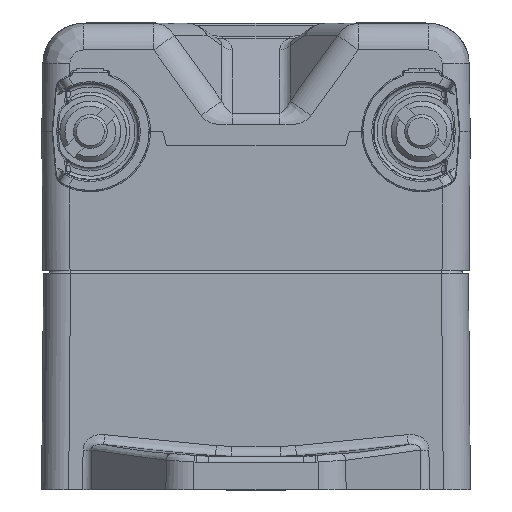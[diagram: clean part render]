
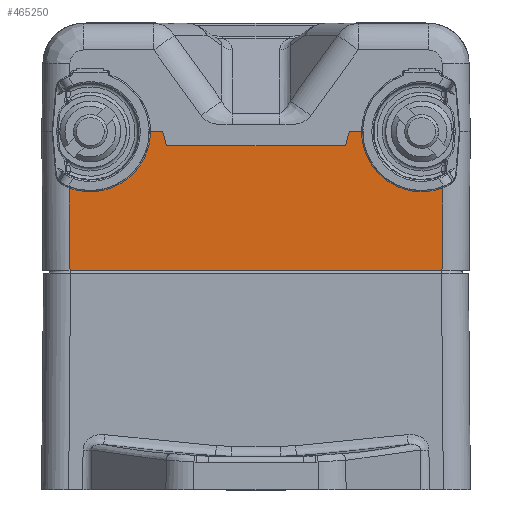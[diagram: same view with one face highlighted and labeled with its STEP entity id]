
A CAD part, left-side view. The second image highlights one B-rep face of the part: STEP entity #465250.
In plain terms, the highlighted planar face has unit normal (-1, 0, -0.009) as drawn and (-1, 0, 0.009) by its records, which use the part's own axes.
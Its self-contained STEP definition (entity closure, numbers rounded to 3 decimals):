
#380690=CARTESIAN_POINT('',(-54.101,-27.606,
-41.862));
#380700=VERTEX_POINT('',#380690);
#380730=CARTESIAN_POINT('',(-54.067,-27.572,
-37.965));
#380740=DIRECTION('',(0.009,0.009,
1.));
#380750=VECTOR('',#380740,1.);
#380760=LINE('',#380730,#380750);
#380770=CARTESIAN_POINT('',(-53.995,-27.5,-29.7));
#380780=VERTEX_POINT('',#380770);
#380790=EDGE_CURVE('',#380700,#380780,#380760,.T.);
#464250=CARTESIAN_POINT('',(-53.995,31.08,-29.7));
#464260=DIRECTION('',(1.,0.,
-0.009));
#464270=DIRECTION('',(0.,-1.,0.));
#464280=AXIS2_PLACEMENT_3D('',#464250,#464260,#464270);
#464290=PLANE('',#464280);
#464300=CARTESIAN_POINT('',(-54.173,-15.6,
-50.2));
#464310=CARTESIAN_POINT('',(-54.173,-15.6,
-50.19));
#464320=CARTESIAN_POINT('',(-54.173,-15.6,
-50.181));
#464330=CARTESIAN_POINT('',(-54.161,-15.605,
-48.772));
#464340=CARTESIAN_POINT('',(-54.149,-15.939,
-47.393));
#464350=CARTESIAN_POINT('',(-54.127,-17.251,
-44.832));
#464360=CARTESIAN_POINT('',(-54.117,-18.24,
-43.706));
#464370=CARTESIAN_POINT('',(-54.102,-20.671,
-42.033));
#464380=CARTESIAN_POINT('',(-54.098,-22.076,
-41.512));
#464390=CARTESIAN_POINT('',(-54.095,-24.911,
-41.206));
#464400=CARTESIAN_POINT('',(-54.096,-26.292,
-41.377));
#464410=CARTESIAN_POINT('',(-54.101,-27.588,
-41.855));
#464420=CARTESIAN_POINT('',(-54.101,-27.597,
-41.858));
#464430=CARTESIAN_POINT('',(-54.101,-27.606,
-41.862));
#464440=B_SPLINE_CURVE_WITH_KNOTS('',3,(#464300,#464310,#464320,#464330,
#464340,#464350,#464360,#464370,#464380,#464390,#464400,#464410,#464420,
#464430),.UNSPECIFIED.,.F.,.F.,(4,2,2,2,2,2,4),(0.,0.03,
4.165,8.521,12.876,16.934,
16.962),.UNSPECIFIED.);
#464450=CARTESIAN_POINT('',(-54.173,-15.6,
-50.2));
#464460=VERTEX_POINT('',#464450);
#464470=EDGE_CURVE('',#464460,#380700,#464440,.T.);
#464480=ORIENTED_EDGE('',*,*,#464470,.T.);
#464490=CARTESIAN_POINT('',(-54.173,-31.08,
-50.2));
#464500=DIRECTION('',(0.,-1.,0.));
#464510=VECTOR('',#464500,1.);
#464520=LINE('',#464490,#464510);
#464530=CARTESIAN_POINT('',(-54.173,-13.8,
-50.2));
#464540=VERTEX_POINT('',#464530);
#464550=EDGE_CURVE('',#464540,#464460,#464520,.T.);
#464560=ORIENTED_EDGE('',*,*,#464550,.T.);
#464570=CARTESIAN_POINT('',(-54.067,-10.531,
-38.));
#464580=DIRECTION('',(0.008,0.259,
0.966));
#464590=VECTOR('',#464580,1.);
#464600=LINE('',#464570,#464590);
#464610=CARTESIAN_POINT('',(-54.155,-13.234,
-48.086));
#464620=VERTEX_POINT('',#464610);
#464630=EDGE_CURVE('',#464540,#464620,#464600,.T.);
#464640=ORIENTED_EDGE('',*,*,#464630,.F.);
#464650=CARTESIAN_POINT('',(-54.155,31.08,
-48.086));
#464660=DIRECTION('',(0.,1.,0.));
#464670=VECTOR('',#464660,1.);
#464680=LINE('',#464650,#464670);
#464690=CARTESIAN_POINT('',(-54.155,13.234,
-48.086));
#464700=VERTEX_POINT('',#464690);
#464710=EDGE_CURVE('',#464620,#464700,#464680,.T.);
#464720=ORIENTED_EDGE('',*,*,#464710,.F.);
#464730=CARTESIAN_POINT('',(-54.067,10.531,
-38.));
#464740=DIRECTION('',(0.008,-0.259,
0.966));
#464750=VECTOR('',#464740,1.);
#464760=LINE('',#464730,#464750);
#464770=CARTESIAN_POINT('',(-54.173,13.8,
-50.2));
#464780=VERTEX_POINT('',#464770);
#464790=EDGE_CURVE('',#464780,#464700,#464760,.T.);
#464800=ORIENTED_EDGE('',*,*,#464790,.T.);
#464810=CARTESIAN_POINT('',(-54.173,-31.08,
-50.2));
#464820=DIRECTION('',(0.,-1.,0.));
#464830=VECTOR('',#464820,1.);
#464840=LINE('',#464810,#464830);
#464850=CARTESIAN_POINT('',(-54.173,15.6,
-50.2));
#464860=VERTEX_POINT('',#464850);
#464870=EDGE_CURVE('',#464860,#464780,#464840,.T.);
#464880=ORIENTED_EDGE('',*,*,#464870,.T.);
#464890=CARTESIAN_POINT('',(-54.101,27.606,
-41.862));
#464900=CARTESIAN_POINT('',(-54.101,27.597,
-41.858));
#464910=CARTESIAN_POINT('',(-54.101,27.588,
-41.855));
#464920=CARTESIAN_POINT('',(-54.096,26.292,
-41.377));
#464930=CARTESIAN_POINT('',(-54.095,24.911,
-41.206));
#464940=CARTESIAN_POINT('',(-54.098,22.076,
-41.512));
#464950=CARTESIAN_POINT('',(-54.102,20.671,
-42.033));
#464960=CARTESIAN_POINT('',(-54.117,18.24,
-43.706));
#464970=CARTESIAN_POINT('',(-54.127,17.251,
-44.832));
#464980=CARTESIAN_POINT('',(-54.149,15.939,
-47.393));
#464990=CARTESIAN_POINT('',(-54.161,15.605,
-48.772));
#465000=CARTESIAN_POINT('',(-54.173,15.6,
-50.181));
#465010=CARTESIAN_POINT('',(-54.173,15.6,
-50.19));
#465020=CARTESIAN_POINT('',(-54.173,15.6,
-50.2));
#465030=B_SPLINE_CURVE_WITH_KNOTS('',3,(#464890,#464900,#464910,#464920,
#464930,#464940,#464950,#464960,#464970,#464980,#464990,#465000,#465010,
#465020),.UNSPECIFIED.,.F.,.F.,(4,2,2,2,2,2,4),(0.,0.028,
4.086,8.442,12.797,16.933,
16.962),.UNSPECIFIED.);
#465040=CARTESIAN_POINT('',(-54.101,27.606,
-41.862));
#465050=VERTEX_POINT('',#465040);
#465060=EDGE_CURVE('',#465050,#464860,#465030,.T.);
#465070=ORIENTED_EDGE('',*,*,#465060,.T.);
#465080=CARTESIAN_POINT('',(-54.067,27.572,
-37.965));
#465090=DIRECTION('',(0.009,-0.009,
1.));
#465100=VECTOR('',#465090,1.);
#465110=LINE('',#465080,#465100);
#465120=CARTESIAN_POINT('',(-53.995,27.5,-29.7));
#465130=VERTEX_POINT('',#465120);
#465140=EDGE_CURVE('',#465050,#465130,#465110,.T.);
#465150=ORIENTED_EDGE('',*,*,#465140,.F.);
#465160=CARTESIAN_POINT('',(-53.995,31.08,-29.7));
#465170=DIRECTION('',(0.,-1.,0.));
#465180=VECTOR('',#465170,1.);
#465190=LINE('',#465160,#465180);
#465200=EDGE_CURVE('',#465130,#380780,#465190,.T.);
#465210=ORIENTED_EDGE('',*,*,#465200,.F.);
#465220=ORIENTED_EDGE('',*,*,#380790,.T.);
#465230=EDGE_LOOP('',(#465220,#465210,#465150,#465070,#464880,#464800,
#464720,#464640,#464560,#464480));
#465240=FACE_OUTER_BOUND('',#465230,.T.);
#465250=ADVANCED_FACE('',(#465240),#464290,.F.);
